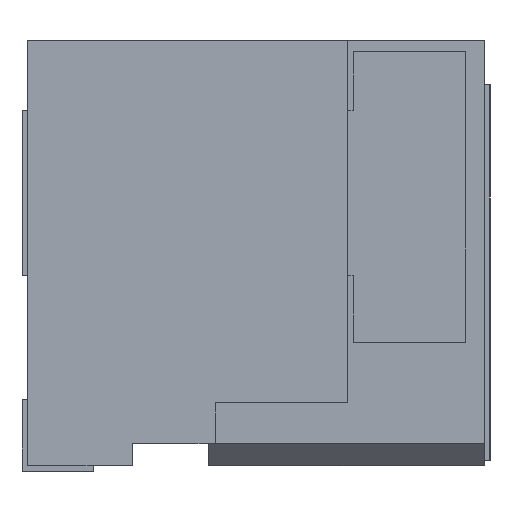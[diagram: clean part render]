
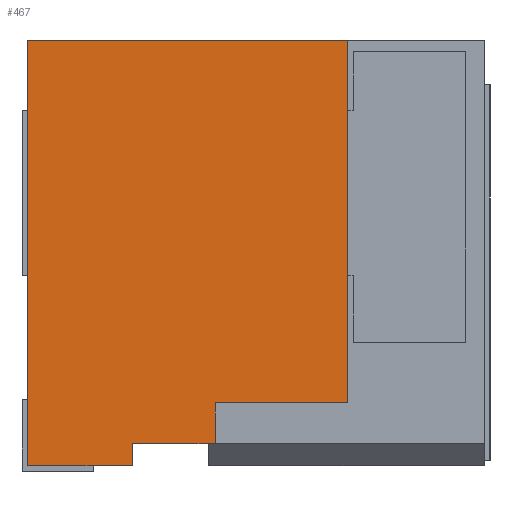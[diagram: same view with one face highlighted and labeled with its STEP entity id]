
A CAD part, left-side view. The second image highlights one B-rep face of the part: STEP entity #467.
In plain terms, the highlighted planar face has unit normal (-1, 0, 0).
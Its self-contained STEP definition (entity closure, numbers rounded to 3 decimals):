
#69=FACE_OUTER_BOUND('',#1289,.T.);
#467=ADVANCED_FACE('',(#69),#865,.T.);
#865=PLANE('',#8505);
#1289=EDGE_LOOP('',(#2123,#2124,#2125,#2126,#2127,#2128,#2129,#2130));
#2123=ORIENTED_EDGE('',*,*,#5073,.T.);
#2124=ORIENTED_EDGE('',*,*,#5074,.T.);
#2125=ORIENTED_EDGE('',*,*,#4754,.T.);
#2126=ORIENTED_EDGE('',*,*,#4767,.F.);
#2127=ORIENTED_EDGE('',*,*,#5075,.F.);
#2128=ORIENTED_EDGE('',*,*,#5076,.T.);
#2129=ORIENTED_EDGE('',*,*,#5068,.T.);
#2130=ORIENTED_EDGE('',*,*,#5077,.T.);
#4006=VERTEX_POINT('',#11139);
#4007=VERTEX_POINT('',#11141);
#4018=VERTEX_POINT('',#11165);
#4289=VERTEX_POINT('',#11747);
#4290=VERTEX_POINT('',#11749);
#4293=VERTEX_POINT('',#11758);
#4294=VERTEX_POINT('',#11759);
#4295=VERTEX_POINT('',#11762);
#4754=EDGE_CURVE('',#4007,#4006,#6309,.T.);
#4767=EDGE_CURVE('',#4018,#4006,#6322,.T.);
#5068=EDGE_CURVE('',#4290,#4289,#6623,.T.);
#5073=EDGE_CURVE('',#4293,#4294,#6628,.T.);
#5074=EDGE_CURVE('',#4294,#4007,#6629,.T.);
#5075=EDGE_CURVE('',#4295,#4018,#6630,.T.);
#5076=EDGE_CURVE('',#4295,#4290,#6631,.T.);
#5077=EDGE_CURVE('',#4289,#4293,#6632,.T.);
#6309=LINE('',#11140,#7460);
#6322=LINE('',#11166,#7473);
#6623=LINE('',#11748,#7774);
#6628=LINE('',#11757,#7779);
#6629=LINE('',#11760,#7780);
#6630=LINE('',#11761,#7781);
#6631=LINE('',#11763,#7782);
#6632=LINE('',#11764,#7783);
#7460=VECTOR('',#9062,1.);
#7473=VECTOR('',#9077,1.);
#7774=VECTOR('',#9398,1.);
#7779=VECTOR('',#9405,1.);
#7780=VECTOR('',#9406,1.);
#7781=VECTOR('',#9407,1.);
#7782=VECTOR('',#9408,1.);
#7783=VECTOR('',#9409,1.);
#8505=AXIS2_PLACEMENT_3D('',#11765,#9410,#9411);
#9062=DIRECTION('',(0.,1.,0.));
#9077=DIRECTION('',(0.,0.,1.));
#9398=DIRECTION('',(0.,-1.,0.));
#9405=DIRECTION('',(0.,-1.,0.));
#9406=DIRECTION('',(0.,0.,1.));
#9407=DIRECTION('',(0.,1.,0.));
#9408=DIRECTION('',(0.,0.,1.));
#9409=DIRECTION('',(0.,0.,1.));
#9410=DIRECTION('',(-1.,0.,0.));
#9411=DIRECTION('',(0.,0.,1.));
#11139=CARTESIAN_POINT('',(-21.,8.45,3.335));
#11140=CARTESIAN_POINT('',(-21.,8.45,3.335));
#11141=CARTESIAN_POINT('',(-21.,5.55,3.335));
#11165=CARTESIAN_POINT('',(-21.,8.45,-0.515));
#11166=CARTESIAN_POINT('',(-21.,8.45,3.335));
#11747=CARTESIAN_POINT('',(-21.,6.75,-0.315));
#11748=CARTESIAN_POINT('',(-21.,7.5,-0.315));
#11749=CARTESIAN_POINT('',(-21.,7.5,-0.315));
#11757=CARTESIAN_POINT('',(-21.,6.75,0.055));
#11758=CARTESIAN_POINT('',(-21.,6.75,0.055));
#11759=CARTESIAN_POINT('',(-21.,5.55,0.055));
#11760=CARTESIAN_POINT('',(-21.,5.55,0.055));
#11761=CARTESIAN_POINT('',(-21.,8.45,-0.515));
#11762=CARTESIAN_POINT('',(-21.,7.5,-0.515));
#11763=CARTESIAN_POINT('',(-21.,7.5,-0.515));
#11764=CARTESIAN_POINT('',(-21.,6.75,-0.315));
#11765=CARTESIAN_POINT('',(-21.,8.45,3.335));
